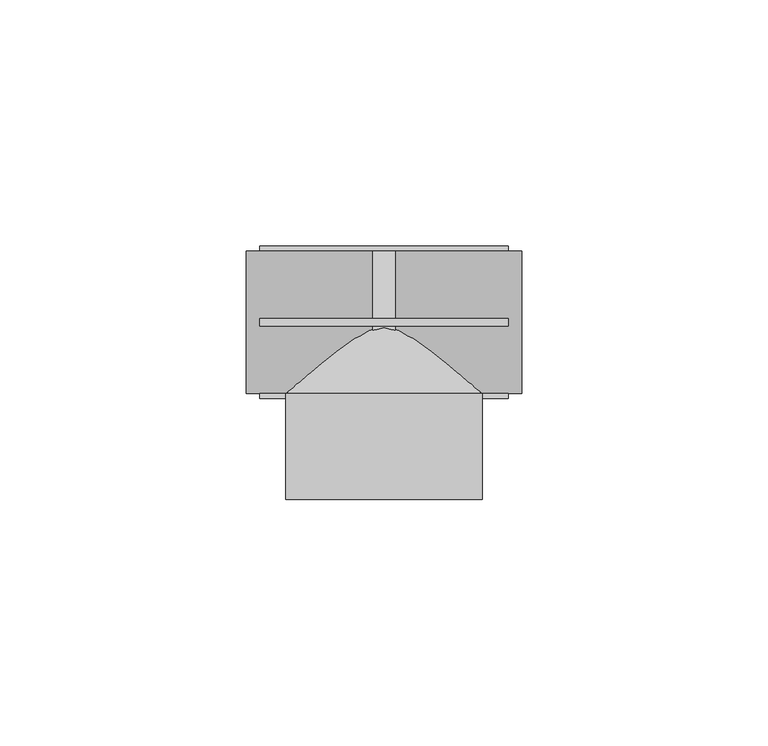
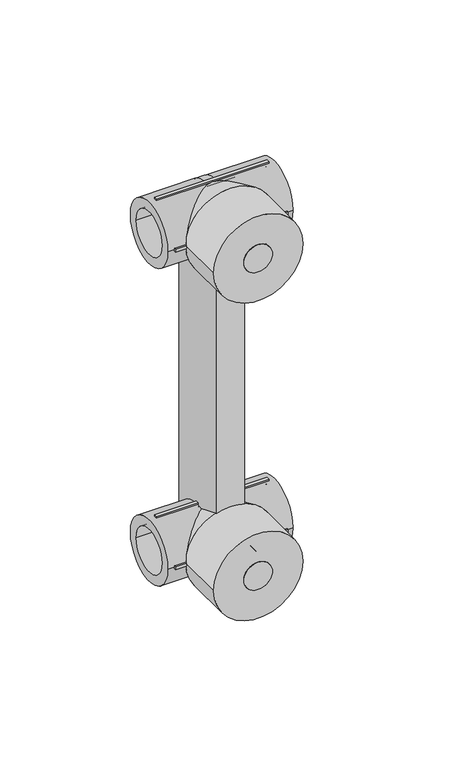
"""IFC4 building model written with IfcOpenShell, lengths in millimetres: pipe fitting geometry, EGB_VASEN_ PPR_Colector de conexion WXR307 : Colector de conexión WXR307."""

from ifc_helpers import new_model, si_unit, point, frame, frame_2d, origin, origin_2d, place, context, project, spatial, polyline, circle_curve, trimmed, segment, composite_curve, outline, extrude, source, transform, mapped, element, save
from ifc_brep_helpers import plane_surface, cylinder_surface, revolved_surface, advanced_brep


def pipe_fitting_34ba40ec(model_context):
    return source(origin(), model_context, "Body", "SolidModel", [
        extrude(outline(composite_curve([segment(trimmed(circle_curve(frame_2d((150.0, 0.0)), 6.35), [point((143.65, 0.0))], [point((156.35, 0.0))], False, "CARTESIAN"), True, "CONTINUOUS"), segment(trimmed(circle_curve(frame_2d((150.0, 0.0)), 6.35), [point((156.35, 0.0))], [point((143.65, 0.0))], False, "CARTESIAN"), True, "CONTINUOUS")], self_intersect=False)), frame((0.0, -36.0, 0.0), z_axis=(0.0, 1.0, 0.0), x_axis=(0.0, 0.0, 1.0)), (0.0, 0.0, 1.0), 21.5),
        advanced_brep(
        [(2.24, -10.0, 150.0), (2.24, 10.0, 150.0), (-2.24, 10.0, 150.0), (-2.24, -10.0, 150.0), (-2.24, 14.5, 150.0), (2.24, 14.5, 150.0), (2.24, -14.5, 150.0), (-2.24, -14.5, 150.0), (28.0, -14.5, 150.0), (28.0, 14.5, 150.0), (28.0, -10.0, 150.0), (28.0, 10.0, 150.0), (-28.0, -14.5, 150.0), (-28.0, 14.5, 150.0), (-28.0, -10.0, 150.0), (-28.0, 10.0, 150.0)],
        [
            (0, 1, circle_curve(frame((2.24, 0.0, 150.0), z_axis=(1.0, 0.0, 0.0), x_axis=(0.0, 1.0, 0.0)), 10.0)),
            (1, 0, circle_curve(frame((2.24, 0.0, 150.0), z_axis=(1.0, 0.0, 0.0), x_axis=(0.0, 1.0, 0.0)), 10.0)),
            (2, 3, circle_curve(frame((-2.24, 0.0, 150.0), z_axis=(-1.0, 0.0, 0.0), x_axis=(0.0, 1.0, 0.0)), 10.0)),
            (3, 2, circle_curve(frame((-2.24, 0.0, 150.0), z_axis=(-1.0, 0.0, 0.0), x_axis=(0.0, 1.0, 0.0)), 10.0)),
            (4, 5),
            (5, 6, circle_curve(frame((2.24, 0.0, 150.0), z_axis=(-1.0, 0.0, 0.0), x_axis=(0.0, 0.0, -1.0)), 14.5)),
            (6, 7),
            (7, 4, circle_curve(frame((-2.24, 0.0, 150.0), z_axis=(1.0, 0.0, 0.0), x_axis=(0.0, 0.0, -1.0)), 14.5)),
            (4, 7, circle_curve(frame((-2.24, 0.0, 150.0), z_axis=(1.0, 0.0, 0.0), x_axis=(0.0, 0.0, 1.0)), 14.5)),
            (6, 5, circle_curve(frame((2.24, 0.0, 150.0), z_axis=(-1.0, 0.0, 0.0), x_axis=(0.0, 0.0, 1.0)), 14.5)),
            (8, 9, circle_curve(frame((28.0, 0.0, 150.0), z_axis=(1.0, 0.0, 0.0), x_axis=(0.0, 1.0, 0.0)), 14.5)),
            (9, 8, circle_curve(frame((28.0, 0.0, 150.0), z_axis=(1.0, 0.0, 0.0), x_axis=(0.0, 1.0, 0.0)), 14.5)),
            (10, 11, circle_curve(frame((28.0, 0.0, 150.0), z_axis=(-1.0, 0.0, 0.0), x_axis=(0.0, 1.0, 0.0)), 10.0)),
            (11, 10, circle_curve(frame((28.0, 0.0, 150.0), z_axis=(-1.0, 0.0, 0.0), x_axis=(0.0, 1.0, 0.0)), 10.0)),
            (9, 5),
            (6, 8),
            (11, 1),
            (0, 10),
            (12, 13, circle_curve(frame((-28.0, 0.0, 150.0), z_axis=(-1.0, 0.0, 0.0), x_axis=(0.0, 1.0, 0.0)), 14.5)),
            (13, 12, circle_curve(frame((-28.0, 0.0, 150.0), z_axis=(-1.0, 0.0, 0.0), x_axis=(0.0, 1.0, 0.0)), 14.5)),
            (14, 15, circle_curve(frame((-28.0, 0.0, 150.0), z_axis=(1.0, 0.0, 0.0), x_axis=(0.0, 1.0, 0.0)), 10.0)),
            (15, 14, circle_curve(frame((-28.0, 0.0, 150.0), z_axis=(1.0, 0.0, 0.0), x_axis=(0.0, 1.0, 0.0)), 10.0)),
            (12, 7),
            (4, 13),
            (14, 3),
            (2, 15),
        ],
        [
            plane_surface(frame((2.24, 0.0, 150.0), z_axis=(1.0, 0.0, 0.0), x_axis=(0.0, 0.0, -1.0))),
            plane_surface(frame((-2.24, 0.0, 150.0), z_axis=(-1.0, 0.0, 0.0), x_axis=(0.0, 0.0, -1.0))),
            cylinder_surface(frame((-2.24, 0.0, 150.0), z_axis=(1.0, 0.0, 0.0), x_axis=(0.0, 0.0, -1.0)), 14.5),
            cylinder_surface(frame((-2.24, 0.0, 150.0), z_axis=(1.0, 0.0, 0.0), x_axis=(0.0, 0.0, 1.0)), 14.5),
            plane_surface(frame((28.0, 0.0, 150.0), z_axis=(1.0, 0.0, 0.0), x_axis=(0.0, 0.0, 1.0))),
            cylinder_surface(frame((2.24, 0.0, 150.0), z_axis=(-1.0, 0.0, 0.0), x_axis=(0.0, 1.0, 0.0)), 14.5),
            revolved_surface(polyline([(28.0, 10.0, 150.0), (2.24, 10.0, 150.0)]), (2.24, 0.0, 150.0), (1.0, 0.0, 0.0)),
            plane_surface(frame((-28.0, 0.0, 150.0), z_axis=(-1.0, 0.0, 0.0), x_axis=(0.0, 0.0, 1.0))),
            cylinder_surface(frame((-28.0, 0.0, 150.0), z_axis=(-1.0, 0.0, 0.0), x_axis=(0.0, 1.0, 0.0)), 14.5),
            revolved_surface(polyline([(-2.240000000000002, 10.0, 150.0), (-28.0, 10.0, 150.0)]), (-28.0, 0.0, 150.0), (1.0, 0.0, 0.0)),
        ],
        [
            (0, [[1, 2]]),
            (1, [[3, 4]]),
            (2, [[5, 6, 7, 8]]),
            (3, [[-5, 9, -7, 10]]),
            (4, [[11, 12], [13, 14]]),
            (5, [[-12, 15, -10, 16]]),
            (5, [[-11, -16, -6, -15]]),
            (6, [[-14, 17, -1, 18]]),
            (6, [[-13, -18, -2, -17]]),
            (7, [[19, 20], [21, 22]]),
            (8, [[-19, 23, -9, 24]]),
            (8, [[-20, -24, -8, -23]]),
            (9, [[-21, 25, -3, 26]]),
            (9, [[-22, -26, -4, -25]]),
        ],
    ),
        extrude(outline(composite_curve([segment(trimmed(circle_curve(frame_2d((150.0, 0.0)), 20.0), [point((150.0, 20.0))], [point((150.0, -20.0))], False, "CARTESIAN"), True, "CONTINUOUS"), segment(trimmed(circle_curve(frame_2d((150.0, 0.0)), 20.0), [point((150.0, -20.0))], [point((150.0, 20.0))], False, "CARTESIAN"), True, "CONTINUOUS")], self_intersect=False), holes=[composite_curve([segment(trimmed(circle_curve(frame_2d((150.0, 0.0)), 6.35), [point((150.0, 6.35))], [point((150.0, -6.35))], True, "CARTESIAN"), True, "CONTINUOUS"), segment(trimmed(circle_curve(frame_2d((150.0, 0.0)), 6.35), [point((150.0, -6.35))], [point((150.0, 6.35))], True, "CARTESIAN"), True, "CONTINUOUS")], self_intersect=False)]), frame((0.0, -36.0, 0.0), z_axis=(0.0, 1.0, 0.0), x_axis=(0.0, 0.0, 1.0)), (0.0, 0.0, 1.0), 21.5),
        advanced_brep(
        [(14.5, 0.0, 150.0), (-14.5, 0.0, 150.0), (20.0, -14.5, 150.0), (-20.0, -14.5, 150.0)],
        [
            (0, 1, circle_curve(frame((0.0, 0.0, 150.0), z_axis=(0.0, 1.0, 0.0), x_axis=(1.0, 0.0, 0.0)), 14.5)),
            (1, 0, circle_curve(frame((0.0, 0.0, 150.0), z_axis=(0.0, 1.0, 0.0), x_axis=(-1.0, 0.0, 0.0)), 14.5)),
            (2, 3, circle_curve(frame((0.0, -14.5, 150.0), z_axis=(0.0, -1.0, 0.0), x_axis=(-1.0, 0.0, 0.0)), 20.0)),
            (3, 2, circle_curve(frame((0.0, -14.5, 150.0), z_axis=(0.0, -1.0, 0.0), x_axis=(1.0, 0.0, 0.0)), 20.0)),
            (3, 1),
            (0, 2),
        ],
        [
            plane_surface(frame((0.0, 0.0, 150.0), z_axis=(0.0, 1.0, 0.0), x_axis=(0.0, 0.0, -1.0))),
            plane_surface(frame((0.0, -14.5, 150.0), z_axis=(0.0, -1.0, 0.0), x_axis=(0.0, 0.0, -1.0))),
            revolved_surface(polyline([(14.499999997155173, 0.0, 150.0), (20.0, -14.5, 150.0)]), (0.0, 38.2272727, 150.0), (0.0, -1.0, 0.0)),
            revolved_surface(polyline([(-14.499999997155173, 0.0, 150.0), (-20.0, -14.5, 150.0)]), (0.0, 38.2272727, 150.0), (0.0, -1.0, 0.0)),
        ],
        [
            (0, [[1, 2]]),
            (1, [[3, 4]]),
            (2, [[-4, 5, -1, 6]]),
            (3, [[-3, -6, -2, -5]]),
        ],
    ),
        extrude(outline(polyline([(25.2, 0.75), (25.2, -0.75), (-25.2, -0.75), (-25.2, 0.75), (25.2, 0.75)])), frame((0.0, 0.0, 163.5), z_axis=(0.0, 0.0, 1.0), x_axis=(1.0, 0.0, 0.0)), (0.0, 0.0, 1.0), 2.0),
        extrude(outline(polyline([(25.2, 0.75), (25.2, -0.75), (-25.2, -0.75), (-25.2, 0.75), (25.2, 0.75)])), frame((0.0, 0.0, 134.5), z_axis=(0.0, 0.0, 1.0), x_axis=(1.0, 0.0, 0.0)), (0.0, 0.0, 1.0), 2.0),
        extrude(outline(polyline([(25.2, 15.5), (25.2, 13.5), (-25.2, 13.5), (-25.2, 15.5), (25.2, 15.5)])), frame((0.0, 0.0, 149.25), z_axis=(0.0, 0.0, 1.0), x_axis=(1.0, 0.0, 0.0)), (0.0, 0.0, 1.0), 1.5),
        extrude(outline(polyline([(25.2, -13.5), (25.2, -15.5), (-25.2, -15.5), (-25.2, -13.5), (25.2, -13.5)])), frame((0.0, 0.0, 149.25), z_axis=(0.0, 0.0, 1.0), x_axis=(1.0, 0.0, 0.0)), (0.0, 0.0, 1.0), 1.5),
        extrude(outline(polyline([(6.35, -14.5), (-6.3055531, -14.5), (-6.3055531, 14.5), (6.35, 14.5), (6.35, -14.5)])), frame((0.0, 0.0, 0.75), z_axis=(0.0, 0.0, 1.0), x_axis=(1.0, 0.0, 0.0)), (0.0, 0.0, 1.0), 149.25),
        extrude(outline(composite_curve([segment(trimmed(circle_curve(origin_2d(), 6.35), [point((-6.35, 0.0))], [point((6.35, 0.0))], False, "CARTESIAN"), True, "CONTINUOUS"), segment(trimmed(circle_curve(origin_2d(), 6.35), [point((6.35, 0.0))], [point((-6.35, 0.0))], False, "CARTESIAN"), True, "CONTINUOUS")], self_intersect=False)), frame((0.0, -36.0, 0.0), z_axis=(0.0, 1.0, 0.0), x_axis=(0.0, 0.0, 1.0)), (0.0, 0.0, 1.0), 21.5),
        advanced_brep(
        [(2.24, -10.0, 0.0), (2.24, 10.0, 0.0), (-2.24, 10.0, 0.0), (-2.24, -10.0, 0.0), (-2.24, 14.5, 0.0), (2.24, 14.5, 0.0), (2.24, -14.5, 0.0), (-2.24, -14.5, 0.0), (28.0, -14.5, 0.0), (28.0, 14.5, 0.0), (28.0, -10.0, 0.0), (28.0, 10.0, 0.0), (-28.0, -14.5, 0.0), (-28.0, 14.5, 0.0), (-28.0, -10.0, 0.0), (-28.0, 10.0, 0.0)],
        [
            (0, 1, circle_curve(frame((2.24, 0.0, 0.0), z_axis=(1.0, 0.0, 0.0), x_axis=(0.0, 1.0, 0.0)), 10.0)),
            (1, 0, circle_curve(frame((2.24, 0.0, 0.0), z_axis=(1.0, 0.0, 0.0), x_axis=(0.0, 1.0, 0.0)), 10.0)),
            (2, 3, circle_curve(frame((-2.24, 0.0, 0.0), z_axis=(-1.0, 0.0, 0.0), x_axis=(0.0, 1.0, 0.0)), 10.0)),
            (3, 2, circle_curve(frame((-2.24, 0.0, 0.0), z_axis=(-1.0, 0.0, 0.0), x_axis=(0.0, 1.0, 0.0)), 10.0)),
            (4, 5),
            (5, 6, circle_curve(frame((2.24, 0.0, 0.0), z_axis=(-1.0, 0.0, 0.0), x_axis=(0.0, 0.0, -1.0)), 14.5)),
            (6, 7),
            (7, 4, circle_curve(frame((-2.24, 0.0, 0.0), z_axis=(1.0, 0.0, 0.0), x_axis=(0.0, 0.0, -1.0)), 14.5)),
            (4, 7, circle_curve(frame((-2.24, 0.0, 0.0), z_axis=(1.0, 0.0, 0.0), x_axis=(0.0, 0.0, 1.0)), 14.5)),
            (6, 5, circle_curve(frame((2.24, 0.0, 0.0), z_axis=(-1.0, 0.0, 0.0), x_axis=(0.0, 0.0, 1.0)), 14.5)),
            (8, 9, circle_curve(frame((28.0, 0.0, 0.0), z_axis=(1.0, 0.0, 0.0), x_axis=(0.0, 1.0, 0.0)), 14.5)),
            (9, 8, circle_curve(frame((28.0, 0.0, 0.0), z_axis=(1.0, 0.0, 0.0), x_axis=(0.0, 1.0, 0.0)), 14.5)),
            (10, 11, circle_curve(frame((28.0, 0.0, 0.0), z_axis=(-1.0, 0.0, 0.0), x_axis=(0.0, 1.0, 0.0)), 10.0)),
            (11, 10, circle_curve(frame((28.0, 0.0, 0.0), z_axis=(-1.0, 0.0, 0.0), x_axis=(0.0, 1.0, 0.0)), 10.0)),
            (9, 5),
            (6, 8),
            (11, 1),
            (0, 10),
            (12, 13, circle_curve(frame((-28.0, 0.0, 0.0), z_axis=(-1.0, 0.0, 0.0), x_axis=(0.0, 1.0, 0.0)), 14.5)),
            (13, 12, circle_curve(frame((-28.0, 0.0, 0.0), z_axis=(-1.0, 0.0, 0.0), x_axis=(0.0, 1.0, 0.0)), 14.5)),
            (14, 15, circle_curve(frame((-28.0, 0.0, 0.0), z_axis=(1.0, 0.0, 0.0), x_axis=(0.0, 1.0, 0.0)), 10.0)),
            (15, 14, circle_curve(frame((-28.0, 0.0, 0.0), z_axis=(1.0, 0.0, 0.0), x_axis=(0.0, 1.0, 0.0)), 10.0)),
            (12, 7),
            (4, 13),
            (14, 3),
            (2, 15),
        ],
        [
            plane_surface(frame((2.24, 0.0, 0.0), z_axis=(1.0, 0.0, 0.0), x_axis=(0.0, 0.0, -1.0))),
            plane_surface(frame((-2.24, 0.0, 0.0), z_axis=(-1.0, 0.0, 0.0), x_axis=(0.0, 0.0, -1.0))),
            cylinder_surface(frame((-2.24, 0.0, 0.0), z_axis=(1.0, 0.0, 0.0), x_axis=(0.0, 0.0, -1.0)), 14.5),
            cylinder_surface(frame((-2.24, 0.0, 0.0), z_axis=(1.0, 0.0, 0.0), x_axis=(0.0, 0.0, 1.0)), 14.5),
            plane_surface(frame((28.0, 0.0, 0.0), z_axis=(1.0, 0.0, 0.0), x_axis=(0.0, 0.0, 1.0))),
            cylinder_surface(frame((2.24, 0.0, 0.0), z_axis=(-1.0, 0.0, 0.0), x_axis=(0.0, 1.0, 0.0)), 14.5),
            revolved_surface(polyline([(28.0, 10.0, 0.0), (2.24, 10.0, 0.0)]), (2.24, 0.0, 0.0), (1.0, 0.0, 0.0)),
            plane_surface(frame((-28.0, 0.0, 0.0), z_axis=(-1.0, 0.0, 0.0), x_axis=(0.0, 0.0, 1.0))),
            cylinder_surface(frame((-28.0, 0.0, 0.0), z_axis=(-1.0, 0.0, 0.0), x_axis=(0.0, 1.0, 0.0)), 14.5),
            revolved_surface(polyline([(-2.240000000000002, 10.0, 0.0), (-28.0, 10.0, 0.0)]), (-28.0, 0.0, 0.0), (1.0, 0.0, 0.0)),
        ],
        [
            (0, [[1, 2]]),
            (1, [[3, 4]]),
            (2, [[5, 6, 7, 8]]),
            (3, [[-5, 9, -7, 10]]),
            (4, [[11, 12], [13, 14]]),
            (5, [[-12, 15, -10, 16]]),
            (5, [[-11, -16, -6, -15]]),
            (6, [[-14, 17, -1, 18]]),
            (6, [[-13, -18, -2, -17]]),
            (7, [[19, 20], [21, 22]]),
            (8, [[-19, 23, -9, 24]]),
            (8, [[-20, -24, -8, -23]]),
            (9, [[-21, 25, -3, 26]]),
            (9, [[-22, -26, -4, -25]]),
        ],
    ),
        extrude(outline(composite_curve([segment(trimmed(circle_curve(origin_2d(), 20.0), [point((0.0, 20.0))], [point((0.0, -20.0))], False, "CARTESIAN"), True, "CONTINUOUS"), segment(trimmed(circle_curve(origin_2d(), 20.0), [point((0.0, -20.0))], [point((0.0, 20.0))], False, "CARTESIAN"), True, "CONTINUOUS")], self_intersect=False), holes=[composite_curve([segment(trimmed(circle_curve(origin_2d(), 6.35), [point((0.0, 6.35))], [point((0.0, -6.35))], True, "CARTESIAN"), True, "CONTINUOUS"), segment(trimmed(circle_curve(origin_2d(), 6.35), [point((0.0, -6.35))], [point((0.0, 6.35))], True, "CARTESIAN"), True, "CONTINUOUS")], self_intersect=False)]), frame((0.0, -36.0, 0.0), z_axis=(0.0, 1.0, 0.0), x_axis=(0.0, 0.0, 1.0)), (0.0, 0.0, 1.0), 21.5),
        advanced_brep(
        [(14.5, 0.0, 0.0), (-14.5, 0.0, 0.0), (20.0, -14.5, 0.0), (-20.0, -14.5, 0.0)],
        [
            (0, 1, circle_curve(frame((0.0, 0.0, 0.0), z_axis=(0.0, 1.0, 0.0), x_axis=(1.0, 0.0, 0.0)), 14.5)),
            (1, 0, circle_curve(frame((0.0, 0.0, 0.0), z_axis=(0.0, 1.0, 0.0), x_axis=(-1.0, 0.0, 0.0)), 14.5)),
            (2, 3, circle_curve(frame((0.0, -14.5, 0.0), z_axis=(0.0, -1.0, 0.0), x_axis=(-1.0, 0.0, 0.0)), 20.0)),
            (3, 2, circle_curve(frame((0.0, -14.5, 0.0), z_axis=(0.0, -1.0, 0.0), x_axis=(1.0, 0.0, 0.0)), 20.0)),
            (3, 1),
            (0, 2),
        ],
        [
            plane_surface(frame((0.0, 0.0, 0.0), z_axis=(0.0, 1.0, 0.0), x_axis=(0.0, 0.0, -1.0))),
            plane_surface(frame((0.0, -14.5, 0.0), z_axis=(0.0, -1.0, 0.0), x_axis=(0.0, 0.0, -1.0))),
            revolved_surface(polyline([(14.499999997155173, 0.0, 0.0), (20.0, -14.5, 0.0)]), (0.0, 38.2272727, 0.0), (0.0, -1.0, 0.0)),
            revolved_surface(polyline([(-14.499999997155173, 0.0, 0.0), (-20.0, -14.5, 0.0)]), (0.0, 38.2272727, 0.0), (0.0, -1.0, 0.0)),
        ],
        [
            (0, [[1, 2]]),
            (1, [[3, 4]]),
            (2, [[-4, 5, -1, 6]]),
            (3, [[-3, -6, -2, -5]]),
        ],
    ),
        extrude(outline(polyline([(25.2, 0.75), (25.2, -0.75), (-25.2, -0.75), (-25.2, 0.75), (25.2, 0.75)])), frame((0.0, 0.0, 13.5), z_axis=(0.0, 0.0, 1.0), x_axis=(1.0, 0.0, 0.0)), (0.0, 0.0, 1.0), 2.0),
        extrude(outline(polyline([(25.2, 0.75), (25.2, -0.75), (-25.2, -0.75), (-25.2, 0.75), (25.2, 0.75)])), frame((0.0, 0.0, -15.5), z_axis=(0.0, 0.0, 1.0), x_axis=(1.0, 0.0, 0.0)), (0.0, 0.0, 1.0), 2.0),
        extrude(outline(polyline([(25.2, 15.5), (25.2, 13.5), (-25.2, 13.5), (-25.2, 15.5), (25.2, 15.5)])), frame((0.0, 0.0, -0.75), z_axis=(0.0, 0.0, 1.0), x_axis=(1.0, 0.0, 0.0)), (0.0, 0.0, 1.0), 1.5),
        extrude(outline(polyline([(25.2, -13.5), (25.2, -15.5), (-25.2, -15.5), (-25.2, -13.5), (25.2, -13.5)])), frame((0.0, 0.0, -0.75), z_axis=(0.0, 0.0, 1.0), x_axis=(1.0, 0.0, 0.0)), (0.0, 0.0, 1.0), 1.5),
    ])


if __name__ == "__main__":
    model = new_model("IFC4")
    model_context = context("Model", 3, world=origin())
    ifc_project = project(units=[si_unit("LENGTHUNIT", "METRE", prefix="MILLI")], contexts=[model_context])
    site = spatial("IfcSite", under=ifc_project)
    building = spatial("IfcBuilding", under=site)
    placement = place(None, origin())
    pipe_fitting_shape = pipe_fitting_34ba40ec(model_context)
    element("IfcPipeFitting", 1, ObjectType="EGB_VASEN_ PPR_Colector de conexion WXR307 : Colector de conexión WXR307", at=placement, inside=building, context=model_context, shape_type="MappedRepresentation", body=[
        mapped(pipe_fitting_shape, transform((0.0, 0.0, 0.0), x_axis=(1.0, 0.0, 0.0), y_axis=(0.0, 1.0, 0.0), z_axis=(0.0, 0.0, 1.0))),
    ])
    save(model, "model.ifc")
